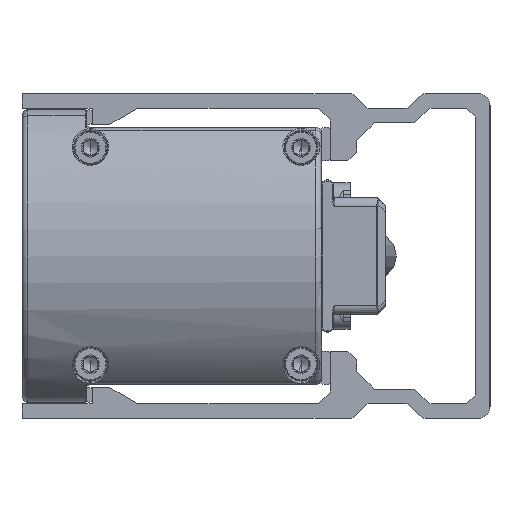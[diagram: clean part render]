
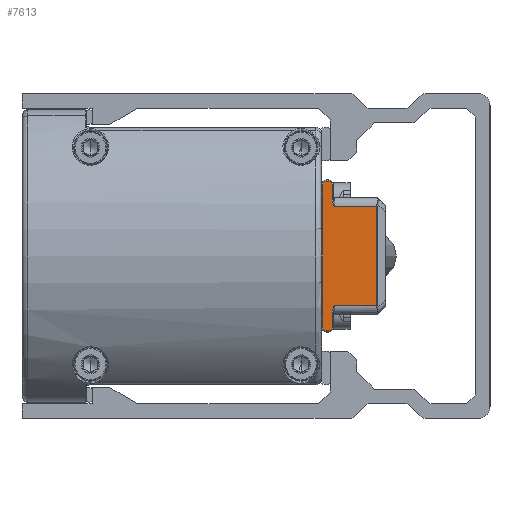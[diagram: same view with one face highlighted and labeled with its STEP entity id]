
A CAD part, left-side view. The second image highlights one B-rep face of the part: STEP entity #7613.
In plain terms, the highlighted planar face has unit normal (-1, 0, 0).
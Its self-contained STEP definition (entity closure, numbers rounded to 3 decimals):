
#377 = VECTOR ( 'NONE', #2768, 1000. ) ;
#442 = CARTESIAN_POINT ( 'NONE',  ( -62.5, 19.383, -8.5 ) ) ;
#905 = DIRECTION ( 'NONE',  ( 0., 0., -1. ) ) ;
#1079 = DIRECTION ( 'NONE',  ( 1., 0., 0. ) ) ;
#1392 = DIRECTION ( 'NONE',  ( -1., 0., 0. ) ) ;
#1471 = ORIENTED_EDGE ( 'NONE', *, *, #26813, .F. ) ;
#1587 = ORIENTED_EDGE ( 'NONE', *, *, #36315, .T. ) ;
#1773 = CARTESIAN_POINT ( 'NONE',  ( -62.5, 19.383, -8.5 ) ) ;
#2329 = ORIENTED_EDGE ( 'NONE', *, *, #40221, .T. ) ;
#2438 = CARTESIAN_POINT ( 'NONE',  ( -62.5, 19.383, 8.5 ) ) ;
#2515 = CIRCLE ( 'NONE', #12840, 0.6 ) ;
#2768 = DIRECTION ( 'NONE',  ( 0., -1., 0. ) ) ;
#2843 = DIRECTION ( 'NONE',  ( 1., 0., 0. ) ) ;
#3132 = EDGE_CURVE ( 'NONE', #7295, #41180, #19866, .T. ) ;
#3135 = CARTESIAN_POINT ( 'NONE',  ( -62.5, 28., -12.2 ) ) ;
#3400 = CARTESIAN_POINT ( 'NONE',  ( -62.5, 26.822, 8.922 ) ) ;
#3508 = LINE ( 'NONE', #29899, #39487 ) ;
#3620 = CARTESIAN_POINT ( 'NONE',  ( -62.5, 26.95, 9.253 ) ) ;
#3848 = CARTESIAN_POINT ( 'NONE',  ( -62.5, 26.658, 8.598 ) ) ;
#5496 = AXIS2_PLACEMENT_3D ( 'NONE', #3135, #5969, #9421 ) ;
#5969 = DIRECTION ( 'NONE',  ( 1., 0., 0. ) ) ;
#6466 = CARTESIAN_POINT ( 'NONE',  ( -62.5, 26.6, -8.5 ) ) ;
#6788 = CARTESIAN_POINT ( 'NONE',  ( -62.5, 27., 9.595 ) ) ;
#6944 = ORIENTED_EDGE ( 'NONE', *, *, #37645, .T. ) ;
#6953 = CARTESIAN_POINT ( 'NONE',  ( -62.5, 28.6, 8.56 ) ) ;
#7009 = DIRECTION ( 'NONE',  ( 0., 0., 1. ) ) ;
#7295 = VERTEX_POINT ( 'NONE', #31165 ) ;
#7319 = CARTESIAN_POINT ( 'NONE',  ( -62.5, 26.924, 9.167 ) ) ;
#7613 = ADVANCED_FACE ( 'NONE', ( #33600 ), #40105, .T. ) ;
#7643 = ORIENTED_EDGE ( 'NONE', *, *, #27444, .F. ) ;
#7701 = CARTESIAN_POINT ( 'NONE',  ( -62.5, 28., 12.8 ) ) ;
#7964 = CARTESIAN_POINT ( 'NONE',  ( -62.5, 27., 12.2 ) ) ;
#9098 = DIRECTION ( 'NONE',  ( 0., 0., 1. ) ) ;
#9198 = VECTOR ( 'NONE', #905, 1000. ) ;
#9421 = DIRECTION ( 'NONE',  ( 0., 0., -1. ) ) ;
#10328 = AXIS2_PLACEMENT_3D ( 'NONE', #16873, #1079, #40427 ) ;
#10890 = VECTOR ( 'NONE', #10898, 1000. ) ;
#10898 = DIRECTION ( 'NONE',  ( 0., 1., 0. ) ) ;
#10973 = CARTESIAN_POINT ( 'NONE',  ( -62.5, 26.6, 8.5 ) ) ;
#11954 = CARTESIAN_POINT ( 'NONE',  ( -62.5, 27., -9.595 ) ) ;
#12161 = ORIENTED_EDGE ( 'NONE', *, *, #35843, .T. ) ;
#12369 = DIRECTION ( 'NONE',  ( 0., 0., 1. ) ) ;
#12421 = CARTESIAN_POINT ( 'NONE',  ( -62.5, 28.6, -12.2 ) ) ;
#12840 = AXIS2_PLACEMENT_3D ( 'NONE', #28808, #41986, #12369 ) ;
#12936 = VERTEX_POINT ( 'NONE', #17908 ) ;
#13045 = CIRCLE ( 'NONE', #10328, 0.6 ) ;
#13357 = CARTESIAN_POINT ( 'NONE',  ( -62.5, 27., 9.595 ) ) ;
#13480 = LINE ( 'NONE', #6788, #38739 ) ;
#13568 = CARTESIAN_POINT ( 'NONE',  ( -62.5, 26.788, 8.849 ) ) ;
#13765 = CARTESIAN_POINT ( 'NONE',  ( -62.5, 27., -9.493 ) ) ;
#14439 = CARTESIAN_POINT ( 'NONE',  ( -62.5, 28., -12.8 ) ) ;
#15919 = ORIENTED_EDGE ( 'NONE', *, *, #35038, .T. ) ;
#16563 = VERTEX_POINT ( 'NONE', #11954 ) ;
#16607 = CARTESIAN_POINT ( 'NONE',  ( -62.5, 26.87, 9.033 ) ) ;
#16826 = EDGE_CURVE ( 'NONE', #23964, #36396, #2515, .T. ) ;
#16836 = CARTESIAN_POINT ( 'NONE',  ( -62.5, 26.998, 9.509 ) ) ;
#16867 = ORIENTED_EDGE ( 'NONE', *, *, #42108, .T. ) ;
#16873 = CARTESIAN_POINT ( 'NONE',  ( -62.5, 27.6, -12.2 ) ) ;
#16898 = DIRECTION ( 'NONE',  ( 0., 1., 0. ) ) ;
#17247 = CARTESIAN_POINT ( 'NONE',  ( -62.5, 26.6, -8.5 ) ) ;
#17272 = CARTESIAN_POINT ( 'NONE',  ( -62.5, 26.711, 8.696 ) ) ;
#17535 = VECTOR ( 'NONE', #9098, 1000. ) ;
#17706 = CARTESIAN_POINT ( 'NONE',  ( -62.5, 19.383, 8.5 ) ) ;
#17828 = CARTESIAN_POINT ( 'NONE',  ( -62.5, 27.6, 12.8 ) ) ;
#17908 = CARTESIAN_POINT ( 'NONE',  ( -62.5, 27.6, -12.8 ) ) ;
#18050 = AXIS2_PLACEMENT_3D ( 'NONE', #35062, #2843, #32047 ) ;
#19083 = VERTEX_POINT ( 'NONE', #21382 ) ;
#19280 = EDGE_LOOP ( 'NONE', ( #24732, #22130, #12161, #26604, #16867, #1471, #24108, #6944, #1587, #15919, #30688, #24116, #2329, #7643 ) ) ;
#19866 = LINE ( 'NONE', #6466, #377 ) ;
#20318 = VERTEX_POINT ( 'NONE', #12421 ) ;
#20618 = DIRECTION ( 'NONE',  ( 0., -1., 0. ) ) ;
#20918 = VECTOR ( 'NONE', #16898, 1000. ) ;
#21382 = CARTESIAN_POINT ( 'NONE',  ( -62.5, 27., -12.2 ) ) ;
#22130 = ORIENTED_EDGE ( 'NONE', *, *, #33264, .F. ) ;
#22230 = CARTESIAN_POINT ( 'NONE',  ( -62.5, 27., 9.595 ) ) ;
#22321 = VERTEX_POINT ( 'NONE', #14439 ) ;
#22864 = CIRCLE ( 'NONE', #18050, 0.6 ) ;
#23674 = LINE ( 'NONE', #17828, #10890 ) ;
#23736 = CARTESIAN_POINT ( 'NONE',  ( -62.5, 26.693, -8.668 ) ) ;
#23964 = VERTEX_POINT ( 'NONE', #27171 ) ;
#24108 = ORIENTED_EDGE ( 'NONE', *, *, #3132, .T. ) ;
#24116 = ORIENTED_EDGE ( 'NONE', *, *, #16826, .F. ) ;
#24732 = ORIENTED_EDGE ( 'NONE', *, *, #25327, .T. ) ;
#25327 = EDGE_CURVE ( 'NONE', #36282, #20318, #34170, .T. ) ;
#26412 = CARTESIAN_POINT ( 'NONE',  ( -62.5, 28.6, 12.2 ) ) ;
#26604 = ORIENTED_EDGE ( 'NONE', *, *, #29061, .F. ) ;
#26813 = EDGE_CURVE ( 'NONE', #7295, #16563, #31601, .T. ) ;
#26971 = CARTESIAN_POINT ( 'NONE',  ( -62.5, 27., -9.595 ) ) ;
#27171 = CARTESIAN_POINT ( 'NONE',  ( -62.5, 27.6, 12.8 ) ) ;
#27219 = CARTESIAN_POINT ( 'NONE',  ( -62.5, 26.879, 9.054 ) ) ;
#27444 = EDGE_CURVE ( 'NONE', #36282, #34132, #22864, .T. ) ;
#27959 = VERTEX_POINT ( 'NONE', #22230 ) ;
#28144 = CARTESIAN_POINT ( 'NONE',  ( -62.5, 27., -12.2 ) ) ;
#28369 = AXIS2_PLACEMENT_3D ( 'NONE', #37277, #1392, #30597 ) ;
#28808 = CARTESIAN_POINT ( 'NONE',  ( -62.5, 27.6, 12.2 ) ) ;
#29061 = EDGE_CURVE ( 'NONE', #19083, #12936, #13045, .T. ) ;
#29899 = CARTESIAN_POINT ( 'NONE',  ( -62.5, 28., -12.8 ) ) ;
#29991 = CARTESIAN_POINT ( 'NONE',  ( -62.5, 26.834, -8.92 ) ) ;
#30220 = CARTESIAN_POINT ( 'NONE',  ( -62.5, 26.857, 9.001 ) ) ;
#30597 = DIRECTION ( 'NONE',  ( 0., 1., 0. ) ) ;
#30688 = ORIENTED_EDGE ( 'NONE', *, *, #39474, .T. ) ;
#31165 = CARTESIAN_POINT ( 'NONE',  ( -62.5, 26.6, -8.5 ) ) ;
#31381 = DIRECTION ( 'NONE',  ( 0., 0., 1. ) ) ;
#31601 = B_SPLINE_CURVE_WITH_KNOTS ( 'NONE', 3,
 ( #17247, #23736, #29991, #39932, #13765, #26971 ),
 .UNSPECIFIED., .F., .F.,
 ( 4, 1, 1, 4 ),
 ( 0., 0.5, 0.75, 1. ),
 .UNSPECIFIED. ) ;
#31720 = CIRCLE ( 'NONE', #5496, 0.6 ) ;
#31794 = LINE ( 'NONE', #1773, #17535 ) ;
#32047 = DIRECTION ( 'NONE',  ( 0., 1., 0. ) ) ;
#33228 = CARTESIAN_POINT ( 'NONE',  ( -62.5, 26.883, 9.063 ) ) ;
#33264 = EDGE_CURVE ( 'NONE', #22321, #20318, #31720, .T. ) ;
#33600 = FACE_OUTER_BOUND ( 'NONE', #19280, .T. ) ;
#34132 = VERTEX_POINT ( 'NONE', #7701 ) ;
#34170 = LINE ( 'NONE', #6953, #9198 ) ;
#35038 = EDGE_CURVE ( 'NONE', #37471, #27959, #35374, .T. ) ;
#35062 = CARTESIAN_POINT ( 'NONE',  ( -62.5, 28., 12.2 ) ) ;
#35374 = B_SPLINE_CURVE_WITH_KNOTS ( 'NONE', 3,
 ( #10973, #3848, #17272, #13568, #3400, #30220, #16607, #27219, #33228, #7319, #3620, #40599, #16836, #13357 ),
 .UNSPECIFIED., .F., .F.,
 ( 4, 2, 1, 1, 2, 2, 2, 4 ),
 ( 0., 0.25, 0.375, 0.438, 0.469, 0.5, 0.75, 1. ),
 .UNSPECIFIED. ) ;
#35843 = EDGE_CURVE ( 'NONE', #22321, #12936, #3508, .T. ) ;
#36282 = VERTEX_POINT ( 'NONE', #26412 ) ;
#36315 = EDGE_CURVE ( 'NONE', #40995, #37471, #37345, .T. ) ;
#36396 = VERTEX_POINT ( 'NONE', #7964 ) ;
#37073 = CARTESIAN_POINT ( 'NONE',  ( -62.5, 26.6, 8.5 ) ) ;
#37198 = VECTOR ( 'NONE', #31381, 1000. ) ;
#37277 = CARTESIAN_POINT ( 'NONE',  ( -62.5, 17.8, 0. ) ) ;
#37345 = LINE ( 'NONE', #17706, #20918 ) ;
#37471 = VERTEX_POINT ( 'NONE', #37073 ) ;
#37645 = EDGE_CURVE ( 'NONE', #41180, #40995, #31794, .T. ) ;
#38739 = VECTOR ( 'NONE', #7009, 1000. ) ;
#39474 = EDGE_CURVE ( 'NONE', #27959, #36396, #13480, .T. ) ;
#39487 = VECTOR ( 'NONE', #20618, 1000. ) ;
#39932 = CARTESIAN_POINT ( 'NONE',  ( -62.5, 26.968, -9.291 ) ) ;
#40105 = PLANE ( 'NONE',  #28369 ) ;
#40221 = EDGE_CURVE ( 'NONE', #23964, #34132, #23674, .T. ) ;
#40427 = DIRECTION ( 'NONE',  ( 0., -1., 0. ) ) ;
#40599 = CARTESIAN_POINT ( 'NONE',  ( -62.5, 26.987, 9.424 ) ) ;
#40995 = VERTEX_POINT ( 'NONE', #2438 ) ;
#41180 = VERTEX_POINT ( 'NONE', #442 ) ;
#41311 = LINE ( 'NONE', #28144, #37198 ) ;
#41986 = DIRECTION ( 'NONE',  ( 1., 0., 0. ) ) ;
#42108 = EDGE_CURVE ( 'NONE', #19083, #16563, #41311, .T. ) ;
